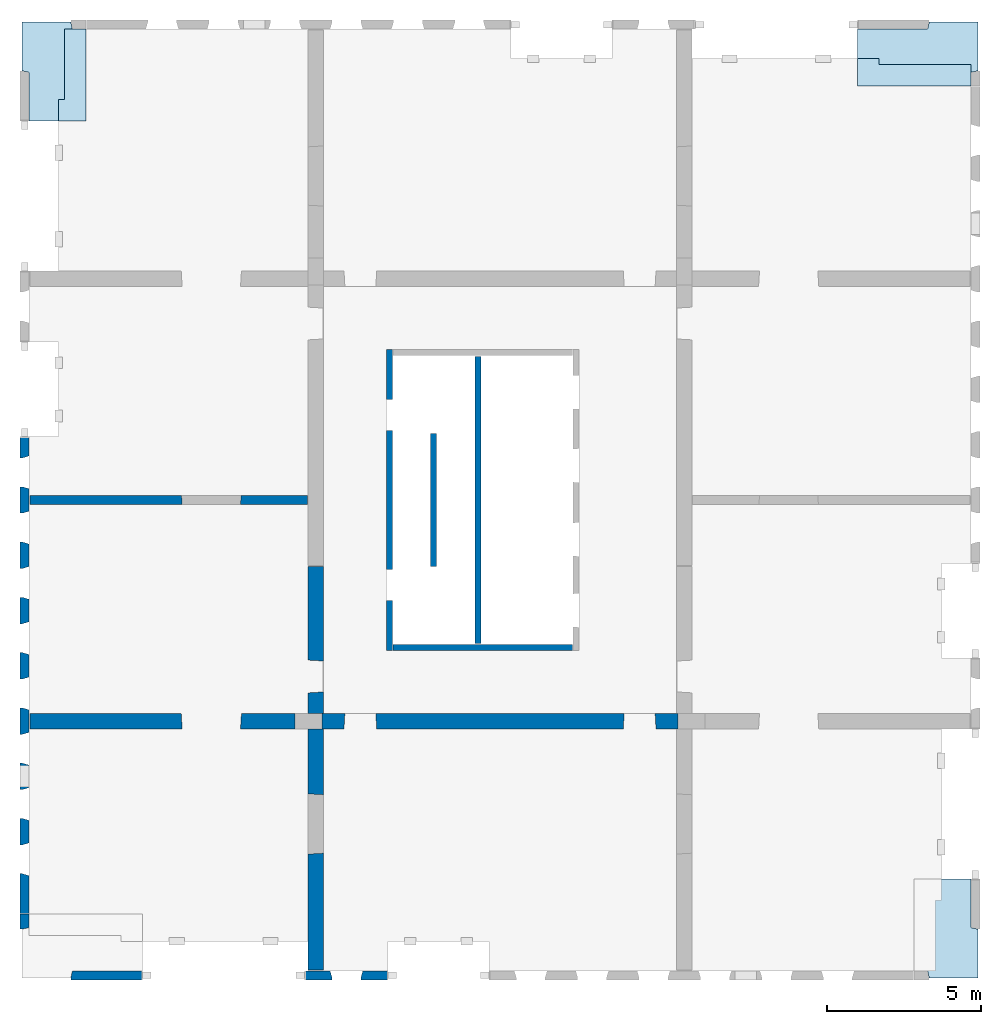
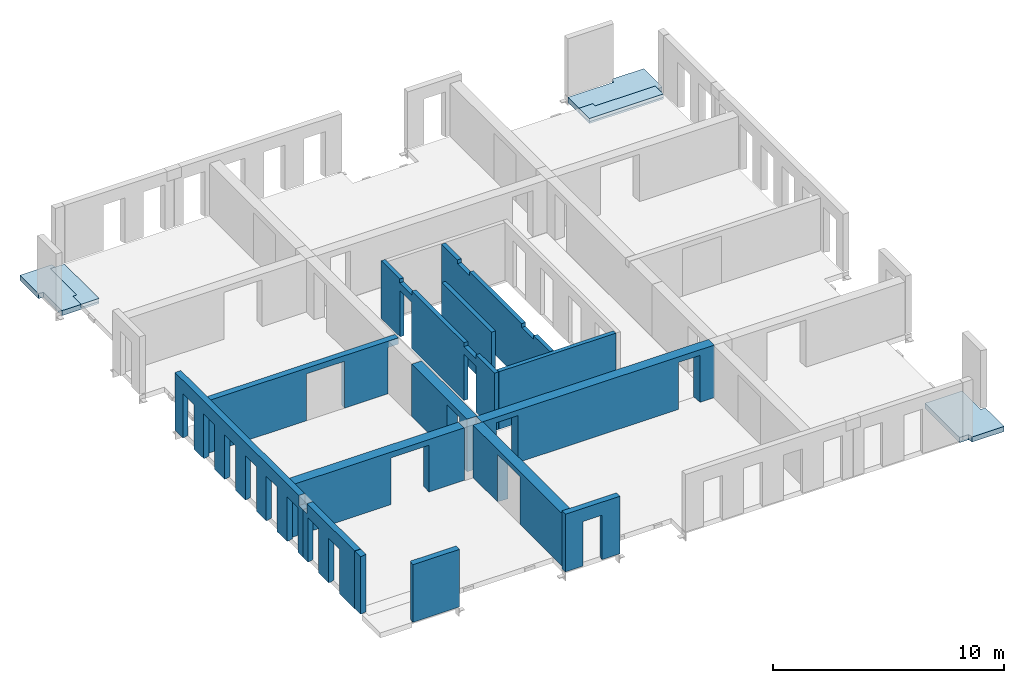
# One storey, part 2 of 4: 14 walls, 5 slabs, 32 openings.
"""IFC2X3 building model written with IfcOpenShell, lengths in millimetres."""

from ifc_helpers import new_model, entity, si_unit, converted_unit, derived_unit, direction, frame, frame_2d, origin, origin_2d_with_axis, place, context, subcontext, project, spatial, polyline, rectangle, outline, extrude, faceted_brep, material, layer, layer_set, layer_usage, type_object, element, save


model = new_model("IFC2X3")

# Units and contexts
model_context = context("Model", 3, precision=0.01, world=origin(), true_north=direction((6.12303176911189e-17, 1.0)))
body_context = subcontext(model_context, "Body", "Model", "MODEL_VIEW")
ifc_project = project(units=[si_unit("LENGTHUNIT", "METRE", prefix="MILLI"), si_unit("AREAUNIT", "SQUARE_METRE"), si_unit("VOLUMEUNIT", "CUBIC_METRE"), converted_unit("PLANEANGLEUNIT", "DEGREE", entity("IfcRatioMeasure", 0.0174532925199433), si_unit("PLANEANGLEUNIT", "RADIAN"), dimensions=[0, 0, 0, 0, 0, 0, 0]), si_unit("MASSUNIT", "GRAM", prefix="KILO"), derived_unit("MASSDENSITYUNIT", [(si_unit("MASSUNIT", "GRAM", prefix="KILO"), 1), (si_unit("LENGTHUNIT", "METRE"), -3)]), si_unit("TIMEUNIT", "SECOND"), si_unit("FREQUENCYUNIT", "HERTZ"), si_unit("THERMODYNAMICTEMPERATUREUNIT", "DEGREE_CELSIUS"), derived_unit("THERMALTRANSMITTANCEUNIT", [(si_unit("MASSUNIT", "GRAM", prefix="KILO"), 1), (si_unit("THERMODYNAMICTEMPERATUREUNIT", "KELVIN"), -1), (si_unit("TIMEUNIT", "SECOND"), -3)]), derived_unit("VOLUMETRICFLOWRATEUNIT", [(si_unit("LENGTHUNIT", "METRE"), 3), (si_unit("TIMEUNIT", "SECOND"), -1)]), si_unit("ELECTRICCURRENTUNIT", "AMPERE"), si_unit("ELECTRICVOLTAGEUNIT", "VOLT"), si_unit("POWERUNIT", "WATT"), si_unit("FORCEUNIT", "NEWTON", prefix="KILO"), si_unit("ILLUMINANCEUNIT", "LUX"), si_unit("LUMINOUSFLUXUNIT", "LUMEN"), si_unit("LUMINOUSINTENSITYUNIT", "CANDELA"), derived_unit("USERDEFINED", [(si_unit("MASSUNIT", "GRAM", prefix="KILO"), -1), (si_unit("LENGTHUNIT", "METRE"), -2), (si_unit("TIMEUNIT", "SECOND"), 3), (si_unit("LUMINOUSFLUXUNIT", "LUMEN"), 1)]), derived_unit("LINEARVELOCITYUNIT", [(si_unit("LENGTHUNIT", "METRE"), 1), (si_unit("TIMEUNIT", "SECOND"), -1)]), si_unit("PRESSUREUNIT", "PASCAL"), derived_unit("USERDEFINED", [(si_unit("LENGTHUNIT", "METRE"), -2), (si_unit("MASSUNIT", "GRAM", prefix="KILO"), 1), (si_unit("TIMEUNIT", "SECOND"), -2)])], contexts=[model_context])

# Site, building, storey
site_placement = place(None, origin())
site = spatial("IfcSite", under=ifc_project, at=site_placement, Name="Default", CompositionType="ELEMENT")
building_placement = place(site_placement, origin())
building = spatial("IfcBuilding", under=site, at=building_placement, Name="niet gebruiken", CompositionType="ELEMENT")
storey_placement = place(building_placement, frame((0.0, 0.0, 36360.0)))
storey = spatial("IfcBuildingStorey", under=building, at=storey_placement, Name="11 elfde verdieping", CompositionType="ELEMENT", Elevation=36360.0)

# Slabs
ifc_material_1 = material(Name="NLRS_f2_beton prefab")
ifc_layer_1 = layer(ifc_material_1, 270.0)
ifc_layer_set_1 = layer_set([ifc_layer_1], Name="Floor:NLRS_23.22_FL_beton prefab d=270 3D element_gen")
ifc_layer_usage_1 = layer_usage(ifc_layer_set_1, "AXIS3", "POSITIVE", 0.0)
slab_1_placement = place(storey_placement, origin())
element("IfcSlab", 1, at=slab_1_placement, inside=storey, material=ifc_layer_usage_1, Name="Floor:NLRS_23.22_FL_beton prefab d=270 3D element_gen", ObjectType="Floor:NLRS_23.22_FL_beton prefab d=270 3D element_gen", PredefinedType="LANDING", context=body_context, shape_type="SweptSolid", body=[
    extrude(outline(polyline([(-322.675940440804, -982.471394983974), (1267.47139498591, -982.471394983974), (1267.47139498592, 607.675940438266), (1034.47139498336, 655.152429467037), (1034.47139498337, 1100.5286050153), (-1955.52860501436, 1100.52860501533), (-1955.52860501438, -749.471394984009), (-370.152429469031, -749.471394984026), (-322.675940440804, -982.471394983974)])), frame((127169.471394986, 31795.5286050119, -90.0), z_axis=(0.0, 0.0, -1.0), x_axis=(0.0, 1.0, 0.0)), (0.0, 0.0, 1.0), 269.999999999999),
])
ifc_material_2 = material(Name="NLRS_f2_beton ihwg")
ifc_layer_2 = layer(ifc_material_2, 170.0)
ifc_layer_set_2 = layer_set([ifc_layer_2], Name="Floor:NLRS_23.21_FL_beton ihwg d=170_gen")
ifc_layer_usage_2 = layer_usage(ifc_layer_set_2, "AXIS3", "POSITIVE", 0.0)
slab_2_placement = place(storey_placement, origin())
element("IfcSlab", 2, at=slab_2_placement, inside=storey, material=ifc_layer_usage_2, Name="Floor:NLRS_23.21_FL_beton ihwg d=170_gen", ObjectType="Floor:NLRS_23.21_FL_beton ihwg d=170_gen", PredefinedType="FLOOR", context=body_context, shape_type="SweptSolid", body=[
    extrude(outline(polyline([(-1230.0, -366.666666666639), (-530.0, -366.666666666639), (-530.0, -166.66666666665), (1760.0, -166.666666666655), (1760.0, 533.333333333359), (-1230.0, 533.333333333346), (-1230.0, -366.666666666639)])), frame((127736.666666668, 31070.0, -90.0), z_axis=(0.0, 0.0, -1.0), x_axis=(0.0, 1.0, 0.0)), (0.0, 0.0, 1.0), 170.0),
])
ifc_layer_usage_3 = layer_usage(ifc_layer_set_1, "AXIS3", "POSITIVE", 0.0)
slab_3_placement = place(storey_placement, origin())
element("IfcSlab", 3, at=slab_3_placement, inside=storey, material=ifc_layer_usage_3, Name="Floor:NLRS_23.22_FL_beton prefab d=270 3D element_gen", ObjectType="Floor:NLRS_23.22_FL_beton prefab d=270 3D element_gen", PredefinedType="LANDING", context=body_context, shape_type="SweptSolid", body=[
    extrude(outline(polyline([(-1034.47139498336, -1100.52860501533), (1955.52860501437, -1100.52860501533), (1955.52860501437, 749.471394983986), (370.152429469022, 749.471394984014), (322.675940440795, 982.471394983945), (-1267.47139498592, 982.471394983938), (-1267.47139498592, -607.675940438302), (-1034.47139498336, -655.152429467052), (-1034.47139498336, -1100.52860501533)])), frame((156330.528605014, 3204.47139498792, -90.0), z_axis=(0.0, 0.0, -1.0), x_axis=(0.0, 1.0, 0.0)), (0.0, 0.0, 1.0), 269.999999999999),
])
ifc_layer_usage_4 = layer_usage(ifc_layer_set_1, "AXIS3", "POSITIVE", 0.0)
slab_4_placement = place(storey_placement, origin())
element("IfcSlab", 4, at=slab_4_placement, inside=storey, material=ifc_layer_usage_4, Name="Floor:NLRS_23.22_FL_beton prefab d=270 3D element_gen", ObjectType="Floor:NLRS_23.22_FL_beton prefab d=270 3D element_gen", PredefinedType="LANDING", context=body_context, shape_type="SweptSolid", body=[
    extrude(outline(polyline([(-1100.52860501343, -2480.52860501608), (749.471394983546, -2480.52860501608), (749.471394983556, -195.152429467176), (982.471394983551, -147.675940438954), (982.471394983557, 1442.47139498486), (-607.675940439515, 1442.47139498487), (-655.152429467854, 1209.47139498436), (-1100.52860501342, 1209.47139498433), (-1100.52860501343, -2480.52860501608)])), frame((155870.528605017, 32080.5286050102, -90.0), z_axis=(0.0, 0.0, -1.0), x_axis=(0.0, 1.0, 0.0)), (0.0, 0.0, 1.0), 269.999999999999),
])
ifc_layer_usage_5 = layer_usage(ifc_layer_set_2, "AXIS3", "POSITIVE", 0.0)
slab_5_placement = place(storey_placement, origin())
element("IfcSlab", 5, at=slab_5_placement, inside=storey, material=ifc_layer_usage_5, Name="Floor:NLRS_23.21_FL_beton ihwg d=170_gen", ObjectType="Floor:NLRS_23.21_FL_beton ihwg d=170_gen", PredefinedType="FLOOR", context=body_context, shape_type="SweptSolid", body=[
    extrude(outline(polyline([(-533.333333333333, -1463.33333333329), (366.666666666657, -1463.33333333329), (366.666666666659, -763.333333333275), (166.66666666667, -763.333333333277), (166.666666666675, 2226.66666666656), (-533.333333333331, 2226.66666666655), (-533.333333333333, -1463.33333333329)])), frame((154853.333333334, 31513.3333333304, -90.0), z_axis=(0.0, 0.0, -1.0), x_axis=(0.0, 1.0, 0.0)), (0.0, 0.0, 1.0), 170.0),
])

# Wall, openings
ifc_layer_3 = layer(ifc_material_1, 200.0)
ifc_layer_set_3 = layer_set([ifc_layer_3], Name="Basic Wall:NLRS_22.21_WA_beton prefab d=200_gen")
ifc_layer_usage_6 = layer_usage(ifc_layer_set_3, "AXIS2", "NEGATIVE", 100.0)
wall_type_1 = type_object("IfcWallType", Name="Basic Wall:NLRS_22.21_WA_beton prefab d=200_gen", PredefinedType="STANDARD", material=ifc_layer_set_3)
wall_1_placement = place(storey_placement, frame((138150.0, 22400.0, -50.0), z_axis=(0.0, 0.0, 1.0), x_axis=(0.0, -1.0, 0.0)))
wall_1 = element("IfcWallStandardCase", 6, at=wall_1_placement, inside=storey, type_object=wall_type_1, material=ifc_layer_usage_6, Name="Basic Wall:NLRS_22.21_WA_beton prefab d=200_gen", ObjectType="Basic Wall:NLRS_22.21_WA_beton prefab d=200_gen", context=body_context, shape_type="SweptSolid", body=[
    extrude(rectangle(XDim=9800.0, YDim=199.999999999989, at=frame_2d((4900.0, 3.76587649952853e-13), x_axis=(-1.0, 0.0))), origin(), (0.0, 0.0, 1.0), 3039.99999999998),
])
opening_1_placement = place(wall_1_placement, origin())
element("IfcOpeningElement", 7, at=opening_1_placement, cuts=wall_1, Name="Basic Wall:NLRS_22.21_WA_beton prefab d=200_gen", ObjectType="Opening", context=body_context, shape_type="SweptSolid", body=[
    extrude(rectangle(XDim=199.999999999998, YDim=1044.0, at=frame_2d((4.33431068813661e-12, 0.0), x_axis=(1.0, 0.0))), frame((7672.0, -100.0, 2940.0), z_axis=(0.0, 1.0, 0.0), x_axis=(0.0, 0.0, -1.0)), (0.0, 0.0, 1.0), 199.999999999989),
])
opening_2_placement = place(wall_1_placement, origin())
element("IfcOpeningElement", 8, at=opening_2_placement, cuts=wall_1, Name="Basic Wall:NLRS_22.21_WA_beton prefab d=200_gen", ObjectType="Opening", context=body_context, shape_type="SweptSolid", body=[
    extrude(rectangle(XDim=199.999999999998, YDim=1044.0, at=frame_2d((4.33431068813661e-12, 2.1600499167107e-12), x_axis=(1.0, 0.0))), frame((2128.0, -100.0, 2940.0), z_axis=(0.0, 1.0, 0.0), x_axis=(0.0, 0.0, -1.0)), (0.0, 0.0, 1.0), 199.999999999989),
])
opening_3_placement = place(wall_1_placement, origin())
element("IfcOpeningElement", 9, at=opening_3_placement, cuts=wall_1, Name="Basic Wall:NLRS_22.21_WA_beton prefab d=200_gen", ObjectType="Opening", context=body_context, shape_type="SweptSolid", body=[
    extrude(rectangle(XDim=2435.00000000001, YDim=1015.99999999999, at=frame_2d((0.0, 1.10844666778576e-12), x_axis=(1.0, 0.0))), frame((7672.0, -100.0, 1217.5), z_axis=(0.0, 1.0, 0.0), x_axis=(0.0, 0.0, -1.0)), (0.0, 0.0, 1.0), 199.999999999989),
])
opening_4_placement = place(wall_1_placement, origin())
element("IfcOpeningElement", 10, at=opening_4_placement, cuts=wall_1, Name="Basic Wall:NLRS_22.21_WA_beton prefab d=200_gen", ObjectType="Opening", context=body_context, shape_type="SweptSolid", body=[
    extrude(rectangle(XDim=2435.00000000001, YDim=1015.99999999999, at=frame_2d((0.0, -2.18847162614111e-12), x_axis=(1.0, 0.0))), frame((2128.0, -100.0, 1217.5), z_axis=(0.0, 1.0, 0.0), x_axis=(0.0, 0.0, -1.0)), (0.0, 0.0, 1.0), 199.999999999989),
])

ifc_layer_usage_7 = layer_usage(ifc_layer_set_3, "AXIS2", "NEGATIVE", 100.0)
wall_2_placement = place(storey_placement, frame((141030.0, 22180.0, -50.0), z_axis=(0.0, 0.0, 1.0), x_axis=(0.0, -1.0, 0.0)))
wall_2 = element("IfcWallStandardCase", 11, at=wall_2_placement, inside=storey, type_object=wall_type_1, material=ifc_layer_usage_7, Name="Basic Wall:NLRS_22.21_WA_beton prefab d=200_gen", ObjectType="Basic Wall:NLRS_22.21_WA_beton prefab d=200_gen", context=body_context, shape_type="SweptSolid", body=[
    extrude(rectangle(XDim=9360.0, YDim=199.999999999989, at=frame_2d((4680.0, -2.8421709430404e-14), x_axis=(-1.0, 0.0))), origin(), (0.0, 0.0, 1.0), 3039.99999999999),
])
opening_5_placement = place(wall_2_placement, origin())
element("IfcOpeningElement", 12, at=opening_5_placement, cuts=wall_2, Name="Basic Wall:NLRS_22.21_WA_beton prefab d=200_gen", ObjectType="Opening", context=body_context, shape_type="SweptSolid", body=[
    extrude(rectangle(XDim=70.0000000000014, YDim=1044.00000000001, at=origin_2d_with_axis()), frame((7452.0, -100.0, 35.0), z_axis=(0.0, 1.0, 0.0), x_axis=(0.0, 0.0, -1.0)), (0.0, 0.0, 1.0), 199.999999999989),
])
opening_6_placement = place(wall_2_placement, origin())
element("IfcOpeningElement", 13, at=opening_6_placement, cuts=wall_2, Name="Basic Wall:NLRS_22.21_WA_beton prefab d=200_gen", ObjectType="Opening", context=body_context, shape_type="SweptSolid", body=[
    extrude(rectangle(XDim=70.0000000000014, YDim=1044.00000000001, at=origin_2d_with_axis()), frame((1908.0, -100.0, 35.0), z_axis=(0.0, 1.0, 0.0), x_axis=(0.0, 0.0, -1.0)), (0.0, 0.0, 1.0), 199.999999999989),
])
opening_7_placement = place(wall_2_placement, origin())
element("IfcOpeningElement", 14, at=opening_7_placement, cuts=wall_2, Name="Basic Wall:NLRS_22.21_WA_beton prefab d=200_gen", ObjectType="Opening", context=body_context, shape_type="SweptSolid", body=[
    extrude(rectangle(XDim=199.999999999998, YDim=1044.00000000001, at=frame_2d((4.33431068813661e-12, 0.0), x_axis=(1.0, 0.0))), frame((1908.0, -100.0, 2940.0), z_axis=(0.0, 1.0, 0.0), x_axis=(0.0, 0.0, -1.0)), (0.0, 0.0, 1.0), 199.999999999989),
])
opening_8_placement = place(wall_2_placement, origin())
element("IfcOpeningElement", 15, at=opening_8_placement, cuts=wall_2, Name="Basic Wall:NLRS_22.21_WA_beton prefab d=200_gen", ObjectType="Opening", context=body_context, shape_type="SweptSolid", body=[
    extrude(rectangle(XDim=199.999999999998, YDim=1044.00000000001, at=frame_2d((4.33431068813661e-12, 0.0), x_axis=(1.0, 0.0))), frame((7452.0, -100.0, 2940.0), z_axis=(0.0, 1.0, 0.0), x_axis=(0.0, 0.0, -1.0)), (0.0, 0.0, 1.0), 199.999999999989),
])
opening_9_placement = place(wall_2_placement, origin())
element("IfcOpeningElement", 16, at=opening_9_placement, cuts=wall_2, Name="Basic Wall:NLRS_22.21_WA_beton prefab d=200_gen", ObjectType="Recess", context=body_context, shape_type="SweptSolid", body=[
    extrude(rectangle(XDim=399.999999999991, YDim=280.000000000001, at=frame_2d((-2.1600499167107e-12, -2.1600499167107e-12), x_axis=(0.0, 1.0))), frame((770.0, -60.0, 438.0), z_axis=(0.0, 1.0, 0.0), x_axis=(1.0, 0.0, 0.0)), (0.0, 0.0, 1.0), 159.999999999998),
])
opening_10_placement = place(wall_2_placement, origin())
element("IfcOpeningElement", 17, at=opening_10_placement, cuts=wall_2, Name="Basic Wall:NLRS_22.21_WA_beton prefab d=200_gen", ObjectType="Recess", context=body_context, shape_type="SweptSolid", body=[
    extrude(rectangle(XDim=399.999999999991, YDim=280.000000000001, at=frame_2d((-2.1600499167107e-12, -2.1600499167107e-12), x_axis=(0.0, 1.0))), frame((1570.0, -60.0, 438.0), z_axis=(0.0, 1.0, 0.0), x_axis=(1.0, 0.0, 0.0)), (0.0, 0.0, 1.0), 159.999999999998),
])
opening_11_placement = place(wall_2_placement, origin())
element("IfcOpeningElement", 18, at=opening_11_placement, cuts=wall_2, Name="Basic Wall:NLRS_22.21_WA_beton prefab d=200_gen", ObjectType="Recess", context=body_context, shape_type="SweptSolid", body=[
    extrude(rectangle(XDim=399.999999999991, YDim=279.999999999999, at=frame_2d((-1.08002495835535e-12, -2.1600499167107e-12), x_axis=(0.0, 1.0))), frame((3160.0, -60.0, 438.0), z_axis=(0.0, 1.0, 0.0), x_axis=(1.0, 0.0, 0.0)), (0.0, 0.0, 1.0), 159.999999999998),
])
opening_12_placement = place(wall_2_placement, origin())
element("IfcOpeningElement", 19, at=opening_12_placement, cuts=wall_2, Name="Basic Wall:NLRS_22.21_WA_beton prefab d=200_gen", ObjectType="Recess", context=body_context, shape_type="SweptSolid", body=[
    extrude(rectangle(XDim=399.999999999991, YDim=279.999999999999, at=frame_2d((1.08002495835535e-12, 2.1600499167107e-12), x_axis=(0.0, 1.0))), frame((3960.0, -60.0, 438.0), z_axis=(0.0, 1.0, 0.0), x_axis=(1.0, 0.0, 0.0)), (0.0, 0.0, 1.0), 159.999999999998),
])

# Walls
ifc_layer_usage_8 = layer_usage(ifc_layer_set_3, "AXIS2", "NEGATIVE", 100.0)
wall_3_placement = place(storey_placement, frame((139590.0, 19660.0, -50.0), z_axis=(0.0, 0.0, 1.0), x_axis=(0.0, -1.0, 0.0)))
element("IfcWallStandardCase", 20, at=wall_3_placement, inside=storey, type_object=wall_type_1, material=ifc_layer_usage_8, Name="Basic Wall:NLRS_22.21_WA_beton prefab d=200_gen", ObjectType="Basic Wall:NLRS_22.21_WA_beton prefab d=200_gen", context=body_context, shape_type="SweptSolid", body=[
    extrude(rectangle(XDim=4320.00000000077, YDim=199.999999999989, at=frame_2d((2160.00000000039, 0.0), x_axis=(-1.0, 0.0))), origin(), (0.0, 0.0, 1.0), 3039.99999999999),
])
ifc_layer_usage_9 = layer_usage(ifc_layer_set_3, "AXIS2", "NEGATIVE", 100.0)
wall_4_placement = place(storey_placement, frame((138270.0, 12700.0, -50.0)))
element("IfcWallStandardCase", 21, at=wall_4_placement, inside=storey, type_object=wall_type_1, material=ifc_layer_usage_9, Name="Basic Wall:NLRS_22.21_WA_beton prefab d=200_gen", ObjectType="Basic Wall:NLRS_22.21_WA_beton prefab d=200_gen", context=body_context, shape_type="SweptSolid", body=[
    extrude(rectangle(XDim=5839.99999999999, YDim=199.999999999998, at=frame_2d((2919.99999999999, -6.82121026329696e-13), x_axis=(-1.0, 0.0))), origin(), (0.0, 0.0, 1.0), 3039.99999999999),
])

# Wall, openings
ifc_layer_4 = layer(ifc_material_1, 300.0)
ifc_layer_set_4 = layer_set([ifc_layer_4], Name="Basic Wall:NLRS_22.21_WA_beton prefab d=300_gen")
ifc_layer_usage_10 = layer_usage(ifc_layer_set_4, "AXIS2", "NEGATIVE", 150.0)
wall_type_2 = type_object("IfcWallType", Name="Basic Wall:NLRS_22.21_WA_beton prefab d=300_gen", PredefinedType="STANDARD", material=ifc_layer_set_4)
wall_5_placement = place(storey_placement, frame((126440.0, 17500.0, -70.0)))
wall_5 = element("IfcWallStandardCase", 22, at=wall_5_placement, inside=storey, type_object=wall_type_2, material=ifc_layer_usage_10, Name="Basic Wall:NLRS_22.21_WA_beton prefab d=300_gen", ObjectType="Basic Wall:NLRS_22.21_WA_beton prefab d=300_gen", context=body_context, shape_type="SweptSolid", body=[
    extrude(rectangle(XDim=9559.9999999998, YDim=300.000000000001, at=frame_2d((4779.9999999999, -4.2632564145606e-14), x_axis=(-1.0, 0.0))), origin(), (0.0, 0.0, 1.0), 2770.0),
])
opening_13_placement = place(wall_5_placement, frame((4942.0, -150.0, 0.0)))
element("IfcOpeningElement", 23, at=opening_13_placement, cuts=wall_5, Name="Basic Wall:NLRS_22.21_WA_beton prefab d=300_gen", ObjectType="Opening", context=body_context, shape_type="Brep", body=[
    faceted_brep([(1918.0, 0.0, 2470.0), (18.0, 0.0, 2470.0), (18.0, 0.0, 0.0), (1918.0, 0.0, 0.0), (1936.0, 300.0, 2488.0), (1936.0, 300.0, 0.0), (0.0, 300.0, 0.0), (0.0, 300.0, 2488.0)], [[[0, 1, 2, 3]], [[4, 5, 6, 7]], [[4, 7, 1, 0]], [[7, 6, 2, 1]], [[6, 5, 3, 2]], [[5, 4, 0, 3]]]),
])
opening_14_placement = place(wall_5_placement, origin())
element("IfcOpeningElement", 24, at=opening_14_placement, cuts=wall_5, Name="Basic Wall:NLRS_22.21_WA_beton prefab d=300_gen", ObjectType="Opening", context=body_context, shape_type="SweptSolid", body=[
    extrude(rectangle(XDim=2440.0, YDim=520.000000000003, at=frame_2d((8.64019966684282e-12, 0.0), x_axis=(0.0, 1.0))), frame((9300.0, 150.0, 1220.0), z_axis=(0.0, -1.0, 0.0), x_axis=(1.0, 0.0, 0.0)), (0.0, 0.0, 1.0), 300.0),
])

# Wall, opening
ifc_layer_5 = layer(ifc_material_1, 500.0)
ifc_layer_set_5 = layer_set([ifc_layer_5], Name="Basic Wall:NLRS_22.21_WA_beton prefab d=500_gen")
ifc_layer_usage_11 = layer_usage(ifc_layer_set_5, "AXIS2", "NEGATIVE", 250.0)
wall_type_3 = type_object("IfcWallType", Name="Basic Wall:NLRS_22.21_WA_beton prefab d=500_gen", PredefinedType="STANDARD", material=ifc_layer_set_5)
wall_6_placement = place(storey_placement, frame((135750.0, 10050.0, -70.0), z_axis=(0.0, 0.0, 1.0), x_axis=(0.0, -1.0, 0.0)))
wall_6 = element("IfcWallStandardCase", 25, at=wall_6_placement, inside=storey, type_object=wall_type_3, material=ifc_layer_usage_11, Name="Basic Wall:NLRS_22.21_WA_beton prefab d=500_gen", ObjectType="Basic Wall:NLRS_22.21_WA_beton prefab d=500_gen", context=body_context, shape_type="SweptSolid", body=[
    extrude(rectangle(XDim=7859.99999999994, YDim=499.99999999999, at=frame_2d((3929.99999999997, 8.5265128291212e-14), x_axis=(-1.0, 0.0))), origin(), (0.0, 0.0, 1.0), 2770.0),
])
opening_15_placement = place(wall_6_placement, frame((4080.0, -250.0, 0.0)))
element("IfcOpeningElement", 26, at=opening_15_placement, cuts=wall_6, Name="Basic Wall:NLRS_22.21_WA_beton prefab d=500_gen", ObjectType="Opening", context=body_context, shape_type="Brep", body=[
    faceted_brep([(-30.0, 500.0, 2470.0), (-30.0, 500.0, 0.0), (-1930.0, 500.0, 0.0), (-1930.0, 500.0, 2470.0), (0.0, 0.0, 2500.0), (-1960.0, 0.0, 2500.0), (-1960.0, 0.0, 0.0), (0.0, 0.0, 0.0)], [[[0, 1, 2, 3]], [[4, 5, 6, 7]], [[4, 0, 3, 5]], [[5, 3, 2, 6]], [[6, 2, 1, 7]], [[7, 1, 0, 4]]]),
])

# Wall, openings
ifc_layer_usage_12 = layer_usage(ifc_layer_set_5, "AXIS2", "NEGATIVE", 250.0)
wall_7_placement = place(storey_placement, frame((135950.003540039, 10300.0, -70.0)))
wall_7 = element("IfcWallStandardCase", 27, at=wall_7_placement, inside=storey, type_object=wall_type_3, material=ifc_layer_usage_12, Name="Basic Wall:NLRS_22.21_WA_beton prefab d=500_gen", ObjectType="Basic Wall:NLRS_22.21_WA_beton prefab d=500_gen", context=body_context, shape_type="SweptSolid", body=[
    extrude(rectangle(XDim=11599.9964599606, YDim=499.999999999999, at=frame_2d((5799.9982299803, 1.4210854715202e-13), x_axis=(-1.0, 0.0))), origin(), (0.0, 0.0, 1.0), 2770.00000000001),
])
opening_16_placement = place(wall_7_placement, frame((719.996459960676, -250.0, 0.0)))
element("IfcOpeningElement", 28, at=opening_16_placement, cuts=wall_7, Name="Basic Wall:NLRS_22.21_WA_beton prefab d=500_gen", ObjectType="Opening", context=body_context, shape_type="Brep", body=[
    faceted_brep([(0.0, 0.0, 2478.0), (30.0, 500.0, 2448.0), (30.0, 500.0, 0.0), (0.0, 0.0, 0.0), (1036.0, 500.0, 0.0), (1066.0, 0.0, 0.0), (1036.0, 500.0, 2448.0), (1066.0, 0.0, 2478.0)], [[[0, 1, 2, 3]], [[3, 2, 4, 5]], [[6, 4, 2, 1]], [[7, 0, 3, 5]], [[7, 6, 1, 0]], [[5, 4, 6, 7]]]),
])
opening_17_placement = place(wall_7_placement, frame((9813.99645996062, -250.0, 0.0)))
element("IfcOpeningElement", 29, at=opening_17_placement, cuts=wall_7, Name="Basic Wall:NLRS_22.21_WA_beton prefab d=500_gen", ObjectType="Opening", context=body_context, shape_type="Brep", body=[
    faceted_brep([(0.0, 0.0, 2478.0), (30.0, 500.0, 2448.0), (30.0, 500.0, 0.0), (0.0, 0.0, 0.0), (1036.0, 500.0, 0.0), (1066.0, 0.0, 0.0), (1036.0, 500.0, 2448.0), (1066.0, 0.0, 2478.0)], [[[0, 1, 2, 3]], [[3, 2, 4, 5]], [[6, 4, 2, 1]], [[7, 0, 3, 5]], [[7, 6, 1, 0]], [[5, 4, 6, 7]]]),
])

# Wall, opening
ifc_layer_usage_13 = layer_usage(ifc_layer_set_5, "AXIS2", "NEGATIVE", 250.0)
wall_8_placement = place(storey_placement, frame((126440.0, 10300.0, -70.0)))
wall_8 = element("IfcWallStandardCase", 30, at=wall_8_placement, inside=storey, type_object=wall_type_3, material=ifc_layer_usage_13, Name="Basic Wall:NLRS_22.21_WA_beton prefab d=500_gen", ObjectType="Basic Wall:NLRS_22.21_WA_beton prefab d=500_gen", context=body_context, shape_type="SweptSolid", body=[
    extrude(rectangle(XDim=8630.00354003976, YDim=499.999999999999, at=frame_2d((4315.00177001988, 4.2632564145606e-14), x_axis=(-1.0, 0.0))), origin(), (0.0, 0.0, 1.0), 2770.0),
])
opening_18_placement = place(wall_8_placement, frame((4930.0, -250.0, 0.0)))
element("IfcOpeningElement", 31, at=opening_18_placement, cuts=wall_8, Name="Basic Wall:NLRS_22.21_WA_beton prefab d=500_gen", ObjectType="Opening", context=body_context, shape_type="Brep", body=[
    faceted_brep([(1930.0, 0.0, 2470.0), (30.0, 0.0, 2470.0), (30.0, 0.0, 0.0), (1930.0, 0.0, 0.0), (1960.0, 500.0, 2500.0), (1960.0, 500.0, 0.0), (0.0, 500.0, 0.0), (0.0, 500.0, 2500.0)], [[[0, 1, 2, 3]], [[4, 5, 6, 7]], [[4, 7, 1, 0]], [[7, 6, 2, 1]], [[6, 5, 3, 2]], [[5, 4, 0, 3]]]),
])

ifc_layer_usage_14 = layer_usage(ifc_layer_set_5, "AXIS2", "NEGATIVE", 250.0)
wall_9_placement = place(storey_placement, frame((135750.0, 15340.0, -70.0), z_axis=(0.0, 0.0, 1.0), x_axis=(0.0, -1.0, 0.0)))
wall_9 = element("IfcWallStandardCase", 32, at=wall_9_placement, inside=storey, type_object=wall_type_3, material=ifc_layer_usage_14, Name="Basic Wall:NLRS_22.21_WA_beton prefab d=500_gen", ObjectType="Basic Wall:NLRS_22.21_WA_beton prefab d=500_gen", context=body_context, shape_type="SweptSolid", body=[
    extrude(rectangle(XDim=4789.99999999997, YDim=499.99999999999, at=frame_2d((2394.99999999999, 0.0), x_axis=(-1.0, 0.0))), origin(), (0.0, 0.0, 1.0), 2770.00000000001),
])
opening_19_placement = place(wall_9_placement, frame((4120.0, -250.0, 0.0)))
element("IfcOpeningElement", 33, at=opening_19_placement, cuts=wall_9, Name="Basic Wall:NLRS_22.21_WA_beton prefab d=500_gen", ObjectType="Opening", context=body_context, shape_type="Brep", body=[
    faceted_brep([(-1066.0, 0.0, 2478.0), (-1036.0, 500.0, 2448.0), (-1036.0, 500.0, 0.0), (-1066.0, 0.0, 0.0), (-30.0, 500.0, 0.0), (0.0, 0.0, 0.0), (-30.0, 500.0, 2448.0), (0.0, 0.0, 2478.0)], [[[0, 1, 2, 3]], [[3, 2, 4, 5]], [[6, 4, 2, 1]], [[7, 0, 3, 5]], [[7, 6, 1, 0]], [[5, 4, 6, 7]]]),
])

ifc_layer_6 = layer(ifc_material_1, 300.0)
ifc_layer_set_6 = layer_set([ifc_layer_6], Name="Basic Wall:NLRS_21.21_WA_beton prefab d=300/320_gen")
ifc_layer_usage_15 = layer_usage(ifc_layer_set_6, "AXIS2", "NEGATIVE", 150.0)
wall_type_4 = type_object("IfcWallType", Name="Basic Wall:NLRS_21.21_WA_beton prefab d=300/320_gen", PredefinedType="STANDARD", material=ifc_layer_set_6)
wall_10_placement = place(storey_placement, frame((138110.0, 2020.0, -50.0), z_axis=(0.0, 0.0, 1.0), x_axis=(-1.0, 0.0, 0.0)))
wall_10 = element("IfcWallStandardCase", 34, at=wall_10_placement, inside=storey, type_object=wall_type_4, material=ifc_layer_usage_15, Name="Basic Wall:NLRS_21.21_WA_beton prefab d=300/320_gen", ObjectType="Basic Wall:NLRS_21.21_WA_beton prefab d=300/320_gen", context=body_context, shape_type="SweptSolid", body=[
    extrude(rectangle(XDim=2720.00000000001, YDim=300.0, at=frame_2d((1360.0, -8.5265128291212e-14), x_axis=(-1.0, 0.0))), origin(), (0.0, 0.0, 1.0), 3040.0),
])
opening_20_placement = place(wall_10_placement, frame((1895.0, 150.0, -20.0)))
element("IfcOpeningElement", 35, at=opening_20_placement, cuts=wall_10, Name="Basic Wall:NLRS_21.21_WA_beton prefab d=300/320_gen", ObjectType="Opening", context=body_context, shape_type="Brep", body=[
    faceted_brep([(-1070.0, -300.0, 2405.0), (-1070.0, -300.0, 0.0), (0.0, -300.0, 0.0), (0.0, -300.0, 2405.0), (-65.0, -81.0, 2370.0), (-1005.0, -81.0, 2370.0), (-65.0, -81.0, 0.0), (-1005.0, -81.0, 0.0), (-1005.0, 0.0, 0.0), (-65.0, 0.0, 0.0), (-1005.0, 0.0, 2370.0), (-65.0, 0.0, 2370.0)], [[[0, 1, 2, 3]], [[3, 4, 5, 0]], [[2, 6, 4, 3]], [[1, 7, 8, 9, 6, 2]], [[0, 5, 7, 1]], [[10, 11, 9, 8]], [[10, 5, 4, 11]], [[11, 4, 6, 9]], [[8, 7, 5, 10]]]),
])

ifc_layer_usage_16 = layer_usage(ifc_layer_set_6, "AXIS2", "NEGATIVE", 150.0)
wall_11_placement = place(storey_placement, frame((130110.0, 2020.0, -50.0), z_axis=(0.0, 0.0, 1.0), x_axis=(-1.0, 0.0, 0.0)))
wall_11 = element("IfcWallStandardCase", 36, at=wall_11_placement, inside=storey, type_object=wall_type_4, material=ifc_layer_usage_16, Name="Basic Wall:NLRS_21.21_WA_beton prefab d=300/320_gen", ObjectType="Basic Wall:NLRS_21.21_WA_beton prefab d=300/320_gen", context=body_context, shape_type="SweptSolid", body=[
    extrude(rectangle(XDim=2330.00000000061, YDim=300.0, at=frame_2d((1165.00000000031, -5.6843418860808e-14), x_axis=(-1.0, 0.0))), origin(), (0.0, 0.0, 1.0), 3040.0),
])
opening_21_placement = place(wall_11_placement, frame((2330.0, 69.0, 0.0)))
element("IfcOpeningElement", 37, at=opening_21_placement, cuts=wall_11, Name="Basic Wall:NLRS_21.21_WA_beton prefab d=300/320_gen", ObjectType="Opening", context=body_context, shape_type="Brep", body=[
    faceted_brep([(0.0, -319.0, 3040.0), (0.0, 0.0, 3040.0), (-65.0, -319.0, 3040.0), (0.0, -319.0, 0.0), (-65.0, -319.0, 0.0), (0.0, 0.0, 0.0)], [[[0, 1, 2]], [[3, 4, 5]], [[2, 4, 3, 0]], [[0, 3, 5, 1]], [[1, 5, 4, 2]]]),
])

ifc_layer_usage_17 = layer_usage(ifc_layer_set_6, "AXIS2", "NEGATIVE", 150.0)
wall_12_placement = place(storey_placement, frame((126270.0, 3530.0, -50.0), z_axis=(0.0, 0.0, 1.0), x_axis=(0.0, 1.0, 0.0)))
wall_12 = element("IfcWallStandardCase", 38, at=wall_12_placement, inside=storey, type_object=wall_type_4, material=ifc_layer_usage_17, Name="Basic Wall:NLRS_21.21_WA_beton prefab d=300/320_gen", ObjectType="Basic Wall:NLRS_21.21_WA_beton prefab d=300/320_gen", context=body_context, shape_type="SweptSolid", body=[
    extrude(rectangle(XDim=489.999999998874, YDim=300.000000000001, at=frame_2d((244.999999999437, -3.25428572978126e-12), x_axis=(-1.0, 0.0))), origin(), (0.0, 0.0, 1.0), 3040.0),
])
opening_22_placement = place(wall_12_placement, frame((-1.97405825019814e-09, 69.0, 0.0)))
element("IfcOpeningElement", 39, at=opening_22_placement, cuts=wall_12, Name="Basic Wall:NLRS_21.21_WA_beton prefab d=300/320_gen", ObjectType="Opening", context=body_context, shape_type="Brep", body=[
    faceted_brep([(0.0, -319.0, 3040.0), (65.0, -319.0, 3040.0), (0.0, 0.0, 3040.0), (0.0, -319.0, 0.0), (0.0, 0.0, 0.0), (65.0, -319.0, 0.0)], [[[0, 1, 2]], [[3, 4, 5]], [[1, 0, 3, 5]], [[0, 2, 4, 3]], [[2, 1, 5, 4]]]),
])

# Wall, openings
ifc_layer_usage_18 = layer_usage(ifc_layer_set_6, "AXIS2", "NEGATIVE", 150.0)
wall_13_placement = place(storey_placement, frame((126270.0, 4040.0, -50.0), z_axis=(0.0, 0.0, 1.0), x_axis=(0.0, 1.0, 0.0)))
wall_13 = element("IfcWallStandardCase", 40, at=wall_13_placement, inside=storey, type_object=wall_type_4, material=ifc_layer_usage_18, Name="Basic Wall:NLRS_21.21_WA_beton prefab d=300/320_gen", ObjectType="Basic Wall:NLRS_21.21_WA_beton prefab d=300/320_gen", context=body_context, shape_type="SweptSolid", body=[
    extrude(rectangle(XDim=4460.0000000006, YDim=300.000000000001, at=frame_2d((2230.0000000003, 0.0), x_axis=(-1.0, 0.0))), origin(), (0.0, 0.0, 1.0), 3039.99999999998),
])
opening_23_placement = place(wall_13_placement, frame((1225.0, 150.0, -20.0)))
element("IfcOpeningElement", 41, at=opening_23_placement, cuts=wall_13, Name="Basic Wall:NLRS_21.21_WA_beton prefab d=300/320_gen", ObjectType="Opening", context=body_context, shape_type="Brep", body=[
    faceted_brep([(0.0, -300.0, 2405.0), (0.0, -300.0, 0.0), (1070.0, -300.0, 0.0), (1070.0, -300.0, 2405.0), (1005.0, -81.0, 2370.0), (65.0, -81.0, 2370.0), (1005.0, -81.0, 0.0), (65.0, -81.0, 0.0), (65.0, 0.0, 0.0), (1005.0, 0.0, 0.0), (65.0, 0.0, 2370.0), (1005.0, 0.0, 2370.0)], [[[0, 1, 2, 3]], [[3, 4, 5, 0]], [[2, 6, 4, 3]], [[1, 7, 8, 9, 6, 2]], [[0, 5, 7, 1]], [[10, 11, 9, 8]], [[10, 5, 4, 11]], [[11, 4, 6, 9]], [[8, 7, 5, 10]]]),
])
opening_24_placement = place(wall_13_placement, frame((3025.0, 150.0, -20.0)))
element("IfcOpeningElement", 42, at=opening_24_placement, cuts=wall_13, Name="Basic Wall:NLRS_21.21_WA_beton prefab d=300/320_gen", ObjectType="Opening", context=body_context, shape_type="Brep", body=[
    faceted_brep([(0.0, -300.0, 2405.0), (0.0, -300.0, 0.0), (1070.0, -300.0, 0.0), (1070.0, -300.0, 2405.0), (1005.0, -81.0, 2370.0), (65.0, -81.0, 2370.0), (1005.0, -81.0, 0.0), (65.0, -81.0, 0.0), (65.0, 0.0, 0.0), (1005.0, 0.0, 0.0), (65.0, 0.0, 2370.0), (1005.0, 0.0, 2370.0)], [[[0, 1, 2, 3]], [[3, 4, 5, 0]], [[2, 6, 4, 3]], [[1, 7, 8, 9, 6, 2]], [[0, 5, 7, 1]], [[10, 11, 9, 8]], [[10, 5, 4, 11]], [[11, 4, 6, 9]], [[8, 7, 5, 10]]]),
])
opening_25_placement = place(wall_13_placement, origin())
element("IfcOpeningElement", 43, at=opening_25_placement, cuts=wall_13, Name="Basic Wall:NLRS_21.21_WA_beton prefab d=300/320_gen", ObjectType="Opening", context=body_context, shape_type="SweptSolid", body=[
    extrude(rectangle(XDim=534.999999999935, YDim=345.000000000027, at=frame_2d((-2.18847162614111e-12, -5.40012479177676e-13), x_axis=(1.0, 0.0))), frame((4287.50000000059, 150.0, 2772.50000000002), z_axis=(0.0, -1.0, 0.0), x_axis=(0.0, 0.0, 1.0)), (0.0, 0.0, 1.0), 300.0),
])

ifc_layer_usage_19 = layer_usage(ifc_layer_set_6, "AXIS2", "NEGATIVE", 150.0)
wall_14_placement = place(storey_placement, frame((126270.0, 8510.0, -50.0), z_axis=(0.0, 0.0, 1.0), x_axis=(0.0, 1.0, 0.0)))
wall_14 = element("IfcWallStandardCase", 44, at=wall_14_placement, inside=storey, type_object=wall_type_4, material=ifc_layer_usage_19, Name="Basic Wall:NLRS_21.21_WA_beton prefab d=300/320_gen", ObjectType="Basic Wall:NLRS_21.21_WA_beton prefab d=300/320_gen", context=body_context, shape_type="SweptSolid", body=[
    extrude(rectangle(XDim=11050.0000000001, YDim=300.000000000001, at=frame_2d((5525.00000000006, 0.0), x_axis=(-1.0, 0.0))), origin(), (0.0, 0.0, 1.0), 3040.0),
])
opening_26_placement = place(wall_14_placement, frame((9355.0, 150.0, -20.0)))
element("IfcOpeningElement", 45, at=opening_26_placement, cuts=wall_14, Name="Basic Wall:NLRS_21.21_WA_beton prefab d=300/320_gen", ObjectType="Opening", context=body_context, shape_type="Brep", body=[
    faceted_brep([(0.0, -300.0, 2405.0), (0.0, -300.0, 0.0), (1070.0, -300.0, 0.0), (1070.0, -300.0, 2405.0), (1005.0, -81.0, 2370.0), (65.0, -81.0, 2370.0), (1005.0, -81.0, 0.0), (65.0, -81.0, 0.0), (65.0, 0.0, 0.0), (1005.0, 0.0, 0.0), (65.0, 0.0, 2370.0), (1005.0, 0.0, 2370.0)], [[[0, 1, 2, 3]], [[3, 4, 5, 0]], [[2, 6, 4, 3]], [[1, 7, 8, 9, 6, 2]], [[0, 5, 7, 1]], [[10, 11, 9, 8]], [[10, 5, 4, 11]], [[11, 4, 6, 9]], [[8, 7, 5, 10]]]),
])
opening_27_placement = place(wall_14_placement, frame((5755.0, 150.0, -20.0)))
element("IfcOpeningElement", 46, at=opening_27_placement, cuts=wall_14, Name="Basic Wall:NLRS_21.21_WA_beton prefab d=300/320_gen", ObjectType="Opening", context=body_context, shape_type="Brep", body=[
    faceted_brep([(0.0, -300.0, 2405.0), (0.0, -300.0, 0.0), (1070.0, -300.0, 0.0), (1070.0, -300.0, 2405.0), (1005.0, -81.0, 2370.0), (65.0, -81.0, 2370.0), (1005.0, -81.0, 0.0), (65.0, -81.0, 0.0), (65.0, 0.0, 0.0), (1005.0, 0.0, 0.0), (65.0, 0.0, 2370.0), (1005.0, 0.0, 2370.0)], [[[0, 1, 2, 3]], [[3, 4, 5, 0]], [[2, 6, 4, 3]], [[1, 7, 8, 9, 6, 2]], [[0, 5, 7, 1]], [[10, 11, 9, 8]], [[10, 5, 4, 11]], [[11, 4, 6, 9]], [[8, 7, 5, 10]]]),
])
opening_28_placement = place(wall_14_placement, frame((3955.0, 150.0, -20.0)))
element("IfcOpeningElement", 47, at=opening_28_placement, cuts=wall_14, Name="Basic Wall:NLRS_21.21_WA_beton prefab d=300/320_gen", ObjectType="Opening", context=body_context, shape_type="Brep", body=[
    faceted_brep([(0.0, -300.0, 2405.0), (0.0, -300.0, 0.0), (1070.0, -300.0, 0.0), (1070.0, -300.0, 2405.0), (1005.0, -81.0, 2370.0), (65.0, -81.0, 2370.0), (1005.0, -81.0, 0.0), (65.0, -81.0, 0.0), (65.0, 0.0, 0.0), (1005.0, 0.0, 0.0), (65.0, 0.0, 2370.0), (1005.0, 0.0, 2370.0)], [[[0, 1, 2, 3]], [[3, 4, 5, 0]], [[2, 6, 4, 3]], [[1, 7, 8, 9, 6, 2]], [[0, 5, 7, 1]], [[10, 11, 9, 8]], [[10, 5, 4, 11]], [[11, 4, 6, 9]], [[8, 7, 5, 10]]]),
])
opening_29_placement = place(wall_14_placement, frame((7555.0, 150.0, -20.0)))
element("IfcOpeningElement", 48, at=opening_29_placement, cuts=wall_14, Name="Basic Wall:NLRS_21.21_WA_beton prefab d=300/320_gen", ObjectType="Opening", context=body_context, shape_type="Brep", body=[
    faceted_brep([(0.0, -300.0, 2405.0), (0.0, -300.0, 0.0), (1070.0, -300.0, 0.0), (1070.0, -300.0, 2405.0), (1005.0, -81.0, 2370.0), (65.0, -81.0, 2370.0), (1005.0, -81.0, 0.0), (65.0, -81.0, 0.0), (65.0, 0.0, 0.0), (1005.0, 0.0, 0.0), (65.0, 0.0, 2370.0), (1005.0, 0.0, 2370.0)], [[[0, 1, 2, 3]], [[3, 4, 5, 0]], [[2, 6, 4, 3]], [[1, 7, 8, 9, 6, 2]], [[0, 5, 7, 1]], [[10, 11, 9, 8]], [[10, 5, 4, 11]], [[11, 4, 6, 9]], [[8, 7, 5, 10]]]),
])
opening_30_placement = place(wall_14_placement, frame((2155.0, 150.0, -20.0)))
element("IfcOpeningElement", 49, at=opening_30_placement, cuts=wall_14, Name="Basic Wall:NLRS_21.21_WA_beton prefab d=300/320_gen", ObjectType="Opening", context=body_context, shape_type="Brep", body=[
    faceted_brep([(0.0, -300.0, 2405.0), (0.0, -300.0, 0.0), (1070.0, -300.0, 0.0), (1070.0, -300.0, 2405.0), (1005.0, -81.0, 2370.0), (65.0, -81.0, 2370.0), (1005.0, -81.0, 0.0), (65.0, -81.0, 0.0), (65.0, 0.0, 0.0), (1005.0, 0.0, 0.0), (65.0, 0.0, 2370.0), (1005.0, 0.0, 2370.0)], [[[0, 1, 2, 3]], [[3, 4, 5, 0]], [[2, 6, 4, 3]], [[1, 7, 8, 9, 6, 2]], [[0, 5, 7, 1]], [[10, 11, 9, 8]], [[10, 5, 4, 11]], [[11, 4, 6, 9]], [[8, 7, 5, 10]]]),
])
opening_31_placement = place(wall_14_placement, frame((355.0, 150.0, -20.0)))
element("IfcOpeningElement", 50, at=opening_31_placement, cuts=wall_14, Name="Basic Wall:NLRS_21.21_WA_beton prefab d=300/320_gen", ObjectType="Opening", context=body_context, shape_type="Brep", body=[
    faceted_brep([(1070.0, -300.0, 2405.0), (0.0, -300.0, 2405.0), (0.0, -300.0, 0.0), (1070.0, -300.0, 0.0), (1005.0, -81.0, 2370.0), (65.0, -81.0, 2370.0), (65.0, -81.0, 0.0), (65.0, 0.0, 0.0), (1005.0, 0.0, 0.0), (1005.0, -81.0, 0.0), (1005.0, 0.0, 2370.0), (65.0, 0.0, 2370.0)], [[[0, 1, 2, 3]], [[1, 0, 4, 5]], [[2, 1, 5, 6]], [[3, 2, 6, 7, 8, 9]], [[0, 3, 9, 4]], [[10, 8, 7, 11]], [[10, 11, 5, 4]], [[11, 7, 6, 5]], [[8, 10, 4, 9]]]),
])
opening_32_placement = place(wall_14_placement, origin())
element("IfcOpeningElement", 51, at=opening_32_placement, cuts=wall_14, Name="Basic Wall:NLRS_21.21_WA_beton prefab d=300/320_gen", ObjectType="Opening", context=body_context, shape_type="SweptSolid", body=[
    extrude(rectangle(XDim=534.999999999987, YDim=344.99999999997, at=frame_2d((-5.54223333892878e-13, 2.1600499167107e-12), x_axis=(0.0, 1.0))), frame((172.499999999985, 150.0, 2772.50000000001), z_axis=(0.0, -1.0, 0.0), x_axis=(-1.0, 0.0, 0.0)), (0.0, 0.0, 1.0), 300.0),
])

save(model, "model.ifc")
